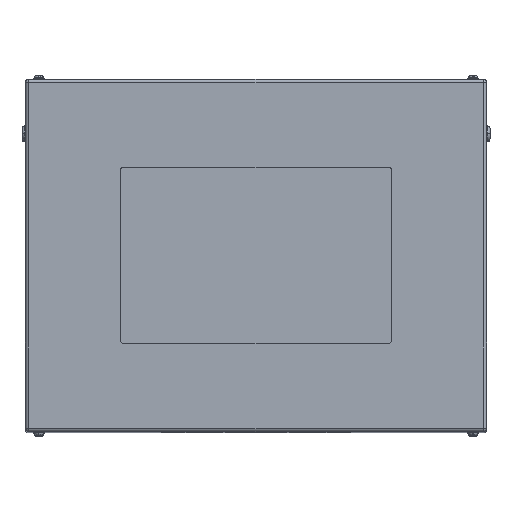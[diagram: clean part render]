
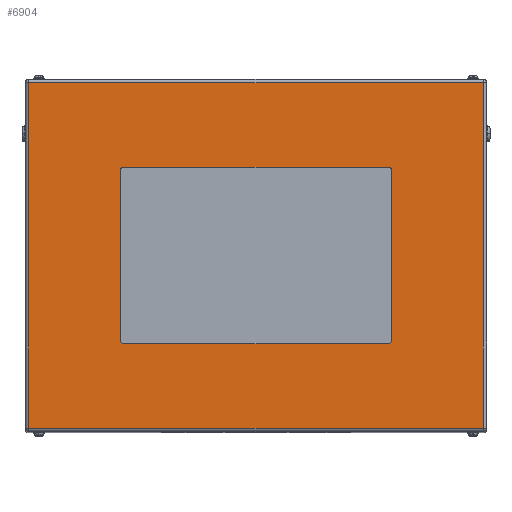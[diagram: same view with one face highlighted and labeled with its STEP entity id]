
A CAD part, top view. The second image highlights one B-rep face of the part: STEP entity #6904.
In plain terms, the highlighted planar face has unit normal (0, 0, 1).
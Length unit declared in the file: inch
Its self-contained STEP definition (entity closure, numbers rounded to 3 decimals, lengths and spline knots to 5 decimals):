
#1 = CARTESIAN_POINT ( 'NONE',  ( -16.734, 13., 26.5 ) ) ;
#23 = DIRECTION ( 'NONE',  ( 0., 0., 1. ) ) ;
#306 = ORIENTED_EDGE ( 'NONE', *, *, #14768, .F. ) ;
#326 = LINE ( 'NONE', #17909, #8905 ) ;
#377 = ORIENTED_EDGE ( 'NONE', *, *, #1445, .F. ) ;
#434 = VERTEX_POINT ( 'NONE', #4075 ) ;
#454 = ORIENTED_EDGE ( 'NONE', *, *, #12751, .F. ) ;
#590 = VECTOR ( 'NONE', #3755, 39.37008 ) ;
#635 = ORIENTED_EDGE ( 'NONE', *, *, #18141, .F. ) ;
#688 = DIRECTION ( 'NONE',  ( 1., 0., 0. ) ) ;
#994 = AXIS2_PLACEMENT_3D ( 'NONE', #5906, #23, #7153 ) ;
#1010 = DIRECTION ( 'NONE',  ( 0., 0., 1. ) ) ;
#1061 = FACE_OUTER_BOUND ( 'NONE', #1939, .T. ) ;
#1092 = EDGE_CURVE ( 'NONE', #8366, #15409, #326, .T. ) ;
#1250 = DIRECTION ( 'NONE',  ( -1., 0., 0. ) ) ;
#1268 = CARTESIAN_POINT ( 'NONE',  ( -10., -6.25, 26.5 ) ) ;
#1303 = PLANE ( 'NONE',  #6361 ) ;
#1429 = CARTESIAN_POINT ( 'NONE',  ( -16.734, 12.734, 26.5 ) ) ;
#1445 = EDGE_CURVE ( 'NONE', #4657, #10936, #8231, .T. ) ;
#1888 = DIRECTION ( 'NONE',  ( 0., 0., 1. ) ) ;
#1939 = EDGE_LOOP ( 'NONE', ( #2900, #6594, #13891, #2025 ) ) ;
#1943 = CARTESIAN_POINT ( 'NONE',  ( 9.75, 6.5, 26.5 ) ) ;
#1997 = VERTEX_POINT ( 'NONE', #13624 ) ;
#2025 = ORIENTED_EDGE ( 'NONE', *, *, #2435, .T. ) ;
#2053 = EDGE_CURVE ( 'NONE', #15409, #10506, #18476, .T. ) ;
#2280 = CARTESIAN_POINT ( 'NONE',  ( -9.75, -6.25, 26.5 ) ) ;
#2358 = CARTESIAN_POINT ( 'NONE',  ( 10., 6.25, 26.5 ) ) ;
#2435 = EDGE_CURVE ( 'NONE', #10506, #12857, #4747, .T. ) ;
#2777 = ORIENTED_EDGE ( 'NONE', *, *, #17836, .F. ) ;
#2900 = ORIENTED_EDGE ( 'NONE', *, *, #10541, .T. ) ;
#3107 = CARTESIAN_POINT ( 'NONE',  ( 16.734, -12.734, 26.5 ) ) ;
#3144 = CARTESIAN_POINT ( 'NONE',  ( 17., 12.734, 26.5 ) ) ;
#3559 = VECTOR ( 'NONE', #7676, 39.37008 ) ;
#3755 = DIRECTION ( 'NONE',  ( 0., 1., 0. ) ) ;
#4075 = CARTESIAN_POINT ( 'NONE',  ( -9.75, 6.5, 26.5 ) ) ;
#4471 = LINE ( 'NONE', #9074, #3559 ) ;
#4534 = CARTESIAN_POINT ( 'NONE',  ( -9.75, 6.25, 26.5 ) ) ;
#4657 = VERTEX_POINT ( 'NONE', #4946 ) ;
#4747 = LINE ( 'NONE', #3144, #9052 ) ;
#4946 = CARTESIAN_POINT ( 'NONE',  ( 10., 6.25, 26.5 ) ) ;
#4998 = VERTEX_POINT ( 'NONE', #1268 ) ;
#5449 = VERTEX_POINT ( 'NONE', #5528 ) ;
#5528 = CARTESIAN_POINT ( 'NONE',  ( -10., 6.25, 26.5 ) ) ;
#5821 = DIRECTION ( 'NONE',  ( 0., -1., 0. ) ) ;
#5906 = CARTESIAN_POINT ( 'NONE',  ( 9.75, -6.25, 26.5 ) ) ;
#6110 = CIRCLE ( 'NONE', #994, 0.25 ) ;
#6130 = DIRECTION ( 'NONE',  ( 1., 0., 0. ) ) ;
#6212 = EDGE_CURVE ( 'NONE', #13665, #1997, #6110, .T. ) ;
#6266 = CARTESIAN_POINT ( 'NONE',  ( -9.75, 6.5, 26.5 ) ) ;
#6325 = DIRECTION ( 'NONE',  ( -1., 0., 0. ) ) ;
#6361 = AXIS2_PLACEMENT_3D ( 'NONE', #8593, #18548, #1250 ) ;
#6594 = ORIENTED_EDGE ( 'NONE', *, *, #1092, .T. ) ;
#6904 = ADVANCED_FACE ( 'NONE', ( #9224, #1061 ), #1303, .F. ) ;
#7153 = DIRECTION ( 'NONE',  ( 1., 0., 0. ) ) ;
#7572 = DIRECTION ( 'NONE',  ( -1., 0., 0. ) ) ;
#7583 = CIRCLE ( 'NONE', #8080, 0.25 ) ;
#7676 = DIRECTION ( 'NONE',  ( 1., 0., 0. ) ) ;
#8080 = AXIS2_PLACEMENT_3D ( 'NONE', #2280, #1010, #13780 ) ;
#8231 = CIRCLE ( 'NONE', #14115, 0.25 ) ;
#8366 = VERTEX_POINT ( 'NONE', #10322 ) ;
#8449 = VECTOR ( 'NONE', #5821, 39.37008 ) ;
#8593 = CARTESIAN_POINT ( 'NONE',  ( 17., 13., 26.5 ) ) ;
#8905 = VECTOR ( 'NONE', #688, 39.37008 ) ;
#8918 = VECTOR ( 'NONE', #18422, 39.37008 ) ;
#9052 = VECTOR ( 'NONE', #7572, 39.37008 ) ;
#9074 = CARTESIAN_POINT ( 'NONE',  ( -9.75, -6.5, 26.5 ) ) ;
#9224 = FACE_BOUND ( 'NONE', #18584, .T. ) ;
#9847 = CARTESIAN_POINT ( 'NONE',  ( -9.75, -6.5, 26.5 ) ) ;
#10302 = ORIENTED_EDGE ( 'NONE', *, *, #6212, .F. ) ;
#10322 = CARTESIAN_POINT ( 'NONE',  ( -16.734, -12.734, 26.5 ) ) ;
#10506 = VERTEX_POINT ( 'NONE', #13948 ) ;
#10541 = EDGE_CURVE ( 'NONE', #12857, #8366, #11358, .T. ) ;
#10936 = VERTEX_POINT ( 'NONE', #1943 ) ;
#11033 = ORIENTED_EDGE ( 'NONE', *, *, #14438, .F. ) ;
#11076 = ORIENTED_EDGE ( 'NONE', *, *, #16381, .F. ) ;
#11358 = LINE ( 'NONE', #1, #8449 ) ;
#11379 = LINE ( 'NONE', #12665, #8918 ) ;
#12665 = CARTESIAN_POINT ( 'NONE',  ( -10., 6.25, 26.5 ) ) ;
#12751 = EDGE_CURVE ( 'NONE', #5449, #4998, #11379, .T. ) ;
#12857 = VERTEX_POINT ( 'NONE', #1429 ) ;
#13226 = AXIS2_PLACEMENT_3D ( 'NONE', #4534, #17467, #6130 ) ;
#13428 = LINE ( 'NONE', #2358, #590 ) ;
#13624 = CARTESIAN_POINT ( 'NONE',  ( 10., -6.25, 26.5 ) ) ;
#13665 = VERTEX_POINT ( 'NONE', #13859 ) ;
#13780 = DIRECTION ( 'NONE',  ( 1., 0., 0. ) ) ;
#13859 = CARTESIAN_POINT ( 'NONE',  ( 9.75, -6.5, 26.5 ) ) ;
#13891 = ORIENTED_EDGE ( 'NONE', *, *, #2053, .T. ) ;
#13948 = CARTESIAN_POINT ( 'NONE',  ( 16.734, 12.734, 26.5 ) ) ;
#14115 = AXIS2_PLACEMENT_3D ( 'NONE', #16471, #1888, #6325 ) ;
#14184 = VECTOR ( 'NONE', #16325, 39.37008 ) ;
#14194 = VECTOR ( 'NONE', #17740, 39.37008 ) ;
#14438 = EDGE_CURVE ( 'NONE', #15282, #13665, #4471, .T. ) ;
#14768 = EDGE_CURVE ( 'NONE', #4998, #15282, #7583, .T. ) ;
#15282 = VERTEX_POINT ( 'NONE', #9847 ) ;
#15409 = VERTEX_POINT ( 'NONE', #3107 ) ;
#15798 = CIRCLE ( 'NONE', #13226, 0.25 ) ;
#16325 = DIRECTION ( 'NONE',  ( 0., 1., 0. ) ) ;
#16379 = CARTESIAN_POINT ( 'NONE',  ( 16.734, 13., 26.5 ) ) ;
#16381 = EDGE_CURVE ( 'NONE', #1997, #4657, #13428, .T. ) ;
#16471 = CARTESIAN_POINT ( 'NONE',  ( 9.75, 6.25, 26.5 ) ) ;
#17467 = DIRECTION ( 'NONE',  ( 0., 0., 1. ) ) ;
#17740 = DIRECTION ( 'NONE',  ( -1., 0., 0. ) ) ;
#17836 = EDGE_CURVE ( 'NONE', #10936, #434, #18041, .T. ) ;
#17909 = CARTESIAN_POINT ( 'NONE',  ( 16.734, -12.734, 26.5 ) ) ;
#18041 = LINE ( 'NONE', #6266, #14194 ) ;
#18141 = EDGE_CURVE ( 'NONE', #434, #5449, #15798, .T. ) ;
#18422 = DIRECTION ( 'NONE',  ( 0., -1., 0. ) ) ;
#18476 = LINE ( 'NONE', #16379, #14184 ) ;
#18548 = DIRECTION ( 'NONE',  ( 0., 0., -1. ) ) ;
#18584 = EDGE_LOOP ( 'NONE', ( #11033, #306, #454, #635, #2777, #377, #11076, #10302 ) ) ;
